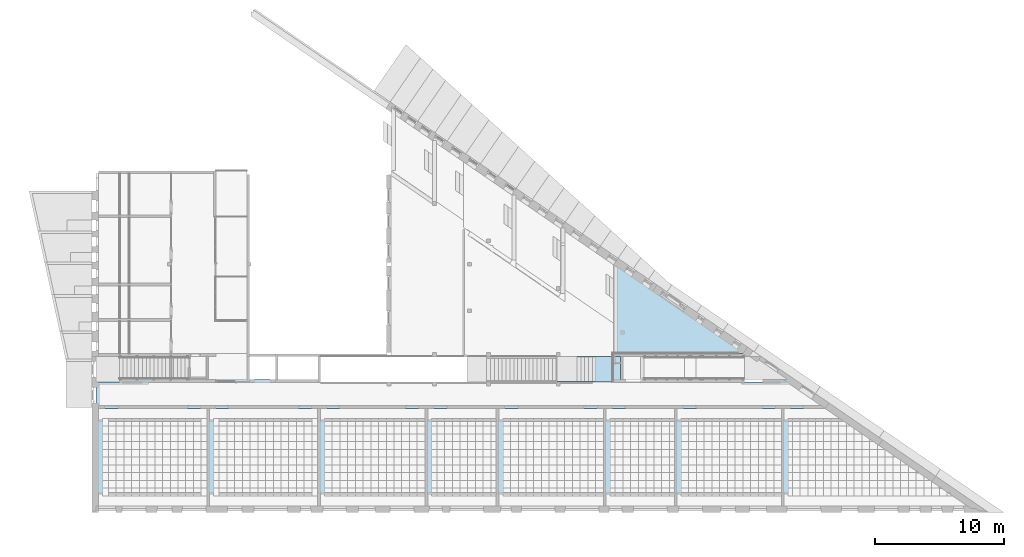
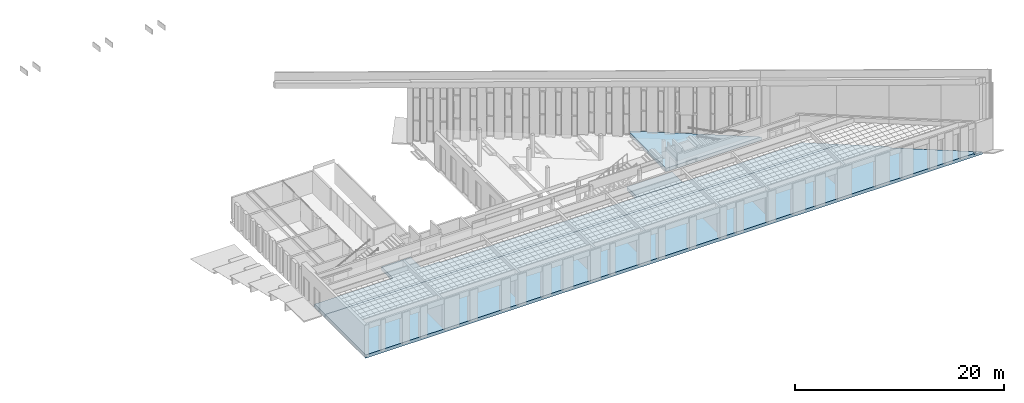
# One storey, part 33 of 79: 4 slabs.
"""IFC2X3 building model written with IfcOpenShell, lengths in millimetres."""

from ifc_helpers import new_model, entity, si_unit, converted_unit, derived_unit, money_unit, direction, frame, origin_with_axes, place, context, subcontext, project, spatial, faceted_brep, material, material_list, type_object, element, save


model = new_model("IFC2X3")

# Units and contexts
model_context = context("Model", 3, precision=0.01, world=origin_with_axes(), true_north=direction((0.0, 1.0)))
body_context = subcontext(model_context, "Body", "Model", "MODEL_VIEW")
ifc_project = project(units=[si_unit("LENGTHUNIT", "METRE", prefix="MILLI"), si_unit("AREAUNIT", "SQUARE_METRE"), si_unit("VOLUMEUNIT", "CUBIC_METRE"), converted_unit("PLANEANGLEUNIT", "DEGREE", entity("IfcPlaneAngleMeasure", 0.0174532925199), si_unit("PLANEANGLEUNIT", "RADIAN"), dimensions=[0, 0, 0, 0, 0, 0, 0]), si_unit("SOLIDANGLEUNIT", "STERADIAN"), money_unit("EUR"), converted_unit("TIMEUNIT", "Year", entity("IfcTimeMeasure", 31556926.0), si_unit("TIMEUNIT", "SECOND"), dimensions=[0, 0, 1, 0, 0, 0, 0]), si_unit("MASSUNIT", "GRAM", prefix="KILO"), si_unit("THERMODYNAMICTEMPERATUREUNIT", "DEGREE_CELSIUS"), si_unit("LUMINOUSINTENSITYUNIT", "LUMEN"), si_unit("ENERGYUNIT", "JOULE", prefix="MEGA"), derived_unit("THERMALCONDUCTANCEUNIT", [(si_unit("POWERUNIT", "WATT"), 1), (si_unit("LENGTHUNIT", "METRE"), -1), (si_unit("THERMODYNAMICTEMPERATUREUNIT", "KELVIN"), -1)]), derived_unit("SPECIFICHEATCAPACITYUNIT", [(si_unit("ENERGYUNIT", "JOULE"), 1), (si_unit("MASSUNIT", "GRAM", prefix="KILO"), -1), (si_unit("THERMODYNAMICTEMPERATUREUNIT", "KELVIN"), -1)]), derived_unit("MASSDENSITYUNIT", [(si_unit("MASSUNIT", "GRAM", prefix="KILO"), 1), (si_unit("VOLUMEUNIT", "CUBIC_METRE"), -1)])], contexts=[model_context])

# Site, building, storey
site_placement = place(None, origin_with_axes())
site = spatial("IfcSite", under=ifc_project, at=site_placement, Name="L.Koidula tn 11b", CompositionType="ELEMENT")
building_placement = place(site_placement, origin_with_axes())
building = spatial("IfcBuilding", under=site, at=building_placement, Name="Rakvere Riigigümnaasium", CompositionType="ELEMENT")
storey_placement = place(building_placement, frame((0.0, 0.0, 3720.0), z_axis=(0.0, 0.0, 1.0), x_axis=(1.0, 0.0, 0.0)))
storey = spatial("IfcBuildingStorey", under=building, at=storey_placement, Name="2.korrus +3,72", CompositionType="ELEMENT", Elevation=3720.0)

# Slabs
ifc_material_1 = material(Name="Parkett")
ifc_material_2 = material(Name="Betoon")
ifc_material_3 = material(Name="Mürasummutus vill")
ifc_material_4 = material(Name="Betoon õõnespaneel")
ifc_material_list_1 = material_list([ifc_material_1, ifc_material_2, ifc_material_3, ifc_material_4])
slab_type_1 = type_object("IfcSlabType", Name="VL-01 395", PredefinedType="NOTDEFINED")
slab_1_placement = place(storey_placement, frame((70999.9980729, 15110.4785302, 0.0), z_axis=(0.0, 0.0, 1.0), x_axis=(1.0, 0.0, 0.0)))
element("IfcSlab", 1, at=slab_1_placement, inside=storey, type_object=slab_type_1, material=ifc_material_list_1, Name="Astmed", PredefinedType="NOTDEFINED", context=body_context, shape_type="Brep", body=[
    faceted_brep([(0.0, 0.0, -10.0), (4989.98406888, 0.0, -10.0), (4989.98406888, 0.0, 0.0), (0.0, 0.0, 0.0), (0.0, 1999.97695546, -10.0), (4989.98406888, 1999.97695546, -10.0), (4989.98406888, 1999.97695546, 0.0), (0.0, 1999.97695546, 0.0)], [[[0, 1, 2, 3]], [[1, 0, 4, 5]], [[1, 5, 6, 2]], [[7, 3, 2, 6]], [[4, 0, 3, 7]], [[5, 4, 7, 6]]]),
    faceted_brep([(0.0, 0.0, -100.0), (4989.98406888, 0.0, -100.0), (4989.98406888, 0.0, -10.0), (0.0, 0.0, -10.0), (0.0, 1999.97695546, -100.0), (4989.98406888, 1999.97695546, -100.0), (4989.98406888, 1999.97695546, -10.0), (0.0, 1999.97695546, -10.0)], [[[0, 1, 2, 3]], [[1, 0, 4, 5]], [[1, 5, 6, 2]], [[7, 3, 2, 6]], [[4, 0, 3, 7]], [[5, 4, 7, 6]]]),
    faceted_brep([(0.0, 0.0, -130.0), (4989.98406888, 0.0, -130.0), (4989.98406888, 0.0, -100.0), (0.0, 0.0, -100.0), (0.0, 1999.97695546, -130.0), (4989.98406888, 1999.97695546, -130.0), (4989.98406888, 1999.97695546, -100.0), (0.0, 1999.97695546, -100.0)], [[[0, 1, 2, 3]], [[1, 0, 4, 5]], [[1, 5, 6, 2]], [[7, 3, 2, 6]], [[4, 0, 3, 7]], [[5, 4, 7, 6]]]),
    faceted_brep([(0.0, 0.0, -130.0), (0.0, 0.0, -395.0), (4989.98406888, 0.0, -395.0), (4989.98406888, 0.0, -130.0), (0.0, 1999.97695546, -130.0), (0.0, 1999.97695546, -395.0), (4989.98406888, 1999.97695546, -395.0), (4989.98406888, 1999.97695546, -130.0)], [[[0, 1, 2, 3]], [[4, 5, 1, 0]], [[2, 1, 5, 6]], [[3, 2, 6, 7]], [[4, 0, 3, 7]], [[7, 6, 5, 4]]]),
])
slab_2_placement = place(storey_placement, frame((64090.0000003, 15100.4785302, 0.0), z_axis=(0.0, 0.0, 1.0), x_axis=(1.0, 0.0, 0.0)))
element("IfcSlab", 2, at=slab_2_placement, inside=storey, type_object=slab_type_1, material=ifc_material_list_1, Name="Vahelagi", PredefinedType="NOTDEFINED", context=body_context, shape_type="Brep", body=[
    faceted_brep([(-14890.0000066, 0.0, -10.0), (-14890.0000066, 200.0, -10.0), (-14890.0000066, 200.0, 0.0), (-14890.0000066, 0.0, 0.0), (1809.99800225, 0.0, -10.0), (1809.99800225, 10.0, -10.0), (11899.9798874, 10.0, -10.0), (11899.9798874, 0.0, -10.0), (25161.2052359, 0.0, -10.0), (28106.3746598, -2020.02415849, -10.0), (-28788.6392077, -2020.02415849, -10.0), (-28788.6392077, 0.0, -10.0), (-20110.0001631, 0.0, -10.0), (-20110.0001631, 2209.97697926, -10.0), (-16890.0000065, 2209.97697926, -10.0), (-16890.0000065, 200.0, -10.0), (-16890.0000065, 200.0, 0.0), (1809.99800225, 0.0, 0.0), (-16890.0000065, 2209.97697926, 0.0), (-20110.0001631, 2209.97697926, 0.0), (-20110.0001631, 0.0, 0.0), (-28788.6392077, 0.0, 0.0), (-28788.6392077, -2020.02415849, 0.0), (28106.3746598, -2020.02415849, 0.0), (25161.2052359, 0.0, 0.0), (11899.9798874, 0.0, 0.0), (11899.9798874, 10.0, 0.0), (1809.99800225, 10.0, 0.0)], [[[0, 1, 2, 3]], [[0, 4, 5, 6, 7, 8, 9, 10, 11, 12, 13, 14, 15, 1]], [[1, 15, 16, 2]], [[17, 3, 2, 16, 18, 19, 20, 21, 22, 23, 24, 25, 26, 27]], [[4, 0, 3, 17]], [[5, 4, 17, 27]], [[6, 5, 27, 26]], [[7, 6, 26, 25]], [[8, 7, 25, 24]], [[9, 8, 24, 23]], [[10, 9, 23, 22]], [[11, 10, 22, 21]], [[12, 11, 21, 20]], [[13, 12, 20, 19]], [[14, 13, 19, 18]], [[15, 14, 18, 16]]]),
    faceted_brep([(0.0, 0.0, -100.0), (-14890.0000066, 0.0, -100.0), (-14890.0000066, 0.0, -10.0), (0.0, 0.0, -10.0), (1809.99800225, 0.0, -100.0), (1809.99800225, 10.0, -100.0), (11899.9798874, 10.0, -100.0), (11899.9798874, 0.0, -100.0), (25161.2052359, 0.0, -100.0), (28106.3746598, -2020.02415849, -100.0), (-28788.6392077, -2020.02415849, -100.0), (-28788.6392077, 0.0, -100.0), (-20110.0001631, 0.0, -100.0), (-20110.0001631, 2209.97697926, -100.0), (-16890.0000065, 2209.97697926, -100.0), (-16890.0000065, 200.0, -100.0), (-14890.0000066, 200.0, -100.0), (-14890.0000066, 200.0, -10.0), (1809.99800225, 0.0, -10.0), (-16890.0000065, 200.0, -10.0), (-16890.0000065, 2209.97697926, -10.0), (-20110.0001631, 2209.97697926, -10.0), (-20110.0001631, 0.0, -10.0), (-28788.6392077, 0.0, -10.0), (-28788.6392077, -2020.02415849, -10.0), (28106.3746598, -2020.02415849, -10.0), (25161.2052359, 0.0, -10.0), (11899.9798874, 0.0, -10.0), (11899.9798874, 10.0, -10.0), (1809.99800225, 10.0, -10.0)], [[[0, 1, 2, 3]], [[1, 0, 4, 5, 6, 7, 8, 9, 10, 11, 12, 13, 14, 15, 16]], [[1, 16, 17, 2]], [[18, 3, 2, 17, 19, 20, 21, 22, 23, 24, 25, 26, 27, 28, 29]], [[4, 0, 3, 18]], [[5, 4, 18, 29]], [[6, 5, 29, 28]], [[7, 6, 28, 27]], [[8, 7, 27, 26]], [[9, 8, 26, 25]], [[10, 9, 25, 24]], [[11, 10, 24, 23]], [[12, 11, 23, 22]], [[13, 12, 22, 21]], [[14, 13, 21, 20]], [[15, 14, 20, 19]], [[16, 15, 19, 17]]]),
    faceted_brep([(-14890.0000066, 0.0, -100.0), (-14890.0000066, 0.0, -130.0), (-14890.0000066, 200.0, -130.0), (-14890.0000066, 200.0, -100.0), (1809.99800225, 0.0, -100.0), (1809.99800225, 0.0, -130.0), (1809.99800225, 10.0, -130.0), (11899.9798874, 10.0, -130.0), (11899.9798874, 0.0, -130.0), (25161.2052359, 0.0, -130.0), (28106.3746598, -2020.02415849, -130.0), (-28788.6392077, -2020.02415849, -130.0), (-28788.6392077, 0.0, -130.0), (-20110.0001631, 0.0, -130.0), (-20110.0001631, 2209.97697926, -130.0), (-16890.0000065, 2209.97697926, -130.0), (-16890.0000065, 200.0, -130.0), (-16890.0000065, 200.0, -100.0), (1809.99800225, 10.0, -100.0), (-16890.0000065, 2209.97697926, -100.0), (-20110.0001631, 2209.97697926, -100.0), (-20110.0001631, 0.0, -100.0), (-28788.6392077, 0.0, -100.0), (-28788.6392077, -2020.02415849, -100.0), (28106.3746598, -2020.02415849, -100.0), (25161.2052359, 0.0, -100.0), (11899.9798874, 0.0, -100.0), (11899.9798874, 10.0, -100.0)], [[[0, 1, 2, 3]], [[4, 5, 1, 0]], [[2, 1, 5, 6, 7, 8, 9, 10, 11, 12, 13, 14, 15, 16]], [[3, 2, 16, 17]], [[18, 4, 0, 3, 17, 19, 20, 21, 22, 23, 24, 25, 26, 27]], [[18, 6, 5, 4]], [[27, 7, 6, 18]], [[26, 8, 7, 27]], [[25, 9, 8, 26]], [[24, 10, 9, 25]], [[23, 11, 10, 24]], [[22, 12, 11, 23]], [[21, 13, 12, 22]], [[20, 14, 13, 21]], [[19, 15, 14, 20]], [[17, 16, 15, 19]]]),
    faceted_brep([(-16890.0000065, 2209.97697926, -395.0), (-19480.0000092, 2209.97697926, -395.0), (-19480.0000092, 2209.97697926, -130.0), (-16890.0000065, 2209.97697926, -130.0), (-19490.0000092, 2009.97698206, -395.0), (-19480.0000092, 2009.97698206, -395.0), (-16890.0000065, 200.0, -395.0), (-14890.0000066, 200.0, -395.0), (-14890.0000066, 0.0, -395.0), (1809.99800225, 0.0, -395.0), (1809.99800225, 10.0, -395.0), (11899.9798874, 10.0, -395.0), (11899.9798874, 0.0, -395.0), (25161.2052359, 0.0, -395.0), (28106.3746598, -2020.02415849, -395.0), (-28788.6392077, -2020.02415849, -395.0), (-28788.6392077, 0.0, -395.0), (-20110.0001631, 0.0, -395.0), (-20110.0001631, 2209.97697926, -395.0), (-19490.0000092, 2209.97697926, -395.0), (-19480.0000092, 2009.97698206, -130.0), (-19490.0000092, 2009.97698206, -130.0), (-19490.0000092, 2209.97697926, -130.0), (-20110.0001631, 2209.97697926, -130.0), (-20110.0001631, 0.0, -130.0), (-28788.6392077, 0.0, -130.0), (-28788.6392077, -2020.02415849, -130.0), (28106.3746598, -2020.02415849, -130.0), (25161.2052359, 0.0, -130.0), (11899.9798874, 0.0, -130.0), (11899.9798874, 10.0, -130.0), (1809.99800225, 10.0, -130.0), (1809.99800225, 0.0, -130.0), (-14890.0000066, 0.0, -130.0), (-14890.0000066, 200.0, -130.0), (-16890.0000065, 200.0, -130.0)], [[[0, 1, 2, 3]], [[4, 5, 1, 0, 6, 7, 8, 9, 10, 11, 12, 13, 14, 15, 16, 17, 18, 19]], [[5, 20, 2, 1]], [[20, 21, 22, 23, 24, 25, 26, 27, 28, 29, 30, 31, 32, 33, 34, 35, 3, 2]], [[3, 35, 6, 0]], [[4, 21, 20, 5]], [[35, 34, 7, 6]], [[34, 33, 8, 7]], [[33, 32, 9, 8]], [[32, 31, 10, 9]], [[31, 30, 11, 10]], [[30, 29, 12, 11]], [[29, 28, 13, 12]], [[28, 27, 14, 13]], [[27, 26, 15, 14]], [[26, 25, 16, 15]], [[25, 24, 17, 16]], [[24, 23, 18, 17]], [[23, 22, 19, 18]], [[4, 19, 22, 21]]]),
])
slab_3_placement = place(storey_placement, frame((86014.5071067, 17320.4555416, 465.0), z_axis=(0.0, 0.0, 1.0), x_axis=(1.0, 0.0, 0.0)))
element("IfcSlab", 3, at=slab_3_placement, inside=storey, type_object=slab_type_1, material=ifc_material_list_1, Name="Astmed", PredefinedType="NOTDEFINED", context=body_context, shape_type="Brep", body=[
    faceted_brep([(-10568.5941791, 6884.97341692, 0.0), (-10559.4191267, 6878.68716617, 0.0), (-10559.4191267, 0.0, 0.0), (0.0, 0.0, 0.0), (-10398.9085631, 7132.37287793, 0.0), (-10559.4191267, 6878.68716617, -10.0), (-10568.5941791, 6884.97341692, -10.0), (-10559.4191267, 0.0, -10.0), (0.0, 0.0, -10.0), (-10398.9085631, 7132.37287793, -10.0)], [[[0, 1, 2, 3, 4]], [[5, 1, 0, 6]], [[7, 2, 1, 5]], [[3, 2, 7, 8]], [[3, 8, 9, 4]], [[9, 6, 0, 4]], [[7, 5, 6, 9, 8]]]),
    faceted_brep([(-10559.4191267, 6878.68716617, -10.0), (-10559.4191267, 0.0, -10.0), (0.0, 0.0, -10.0), (-10398.9085631, 7132.37287793, -10.0), (-10568.5941791, 6884.97341692, -10.0), (-10559.4191267, 6878.68716617, -100.0), (-10559.4191267, 0.0, -100.0), (0.0, 0.0, -100.0), (-10398.9085631, 7132.37287793, -100.0), (-10568.5941791, 6884.97341692, -100.0)], [[[0, 1, 2, 3, 4]], [[1, 0, 5, 6]], [[1, 6, 7, 2]], [[7, 8, 3, 2]], [[9, 4, 3, 8]], [[0, 4, 9, 5]], [[5, 9, 8, 7, 6]]]),
    faceted_brep([(-10559.4191267, 6878.68716617, -100.0), (-10559.4191267, 0.0, -100.0), (0.0, 0.0, -100.0), (-10398.9085631, 7132.37287793, -100.0), (-10568.5941791, 6884.97341692, -100.0), (-10559.4191267, 6878.68716617, -130.0), (-10559.4191267, 0.0, -130.0), (0.0, 0.0, -130.0), (-10398.9085631, 7132.37287793, -130.0), (-10568.5941791, 6884.97341692, -130.0)], [[[0, 1, 2, 3, 4]], [[1, 0, 5, 6]], [[1, 6, 7, 2]], [[7, 8, 3, 2]], [[9, 4, 3, 8]], [[0, 4, 9, 5]], [[5, 9, 8, 7, 6]]]),
    faceted_brep([(-10549.4191267, 6871.82839552, -130.0), (-10549.4191267, 0.0, -130.0), (0.0, 0.0, -130.0), (-10398.9085631, 7132.37287793, -130.0), (-10568.5941791, 6884.97341692, -130.0), (-10549.4191267, 6871.82839552, -395.0), (-10549.4191267, 0.0, -395.0), (0.0, 0.0, -395.0), (-10398.9085631, 7132.37287793, -395.0), (-10568.5941791, 6884.97341692, -395.0)], [[[0, 1, 2, 3, 4]], [[1, 0, 5, 6]], [[1, 6, 7, 2]], [[2, 7, 8, 3]], [[9, 4, 3, 8]], [[5, 0, 4, 9]], [[5, 9, 8, 7, 6]]]),
])
ifc_material_5 = material(Name="PVC-klassid")
ifc_material_6 = material(Name="Betoon - pealevalu")
ifc_material_list_2 = material_list([ifc_material_5, ifc_material_6, ifc_material_2, ifc_material_3, ifc_material_4])
slab_type_2 = type_object("IfcSlabType", Name="VL-01-1 395", PredefinedType="NOTDEFINED")
slab_4_placement = place(storey_placement, frame((35301.3607926, 13080.4543717, 0.0), z_axis=(0.0, 0.0, 1.0), x_axis=(1.0, 0.0, 0.0)))
element("IfcSlab", 4, at=slab_4_placement, inside=storey, type_object=slab_type_2, material=ifc_material_list_2, Name="Vahelagi", PredefinedType="NOTDEFINED", context=body_context, shape_type="Brep", body=[
    faceted_brep([(67592.960856, -7579.99883287, -5.0), (60713.6694396, -2861.65063124, -5.0), (60713.6694396, -2861.65063124, 0.0), (64837.000811, -5689.74904769, 0.0), (67592.960856, -7579.99883287, 0.0), (67298.6049198, -7579.99883287, -5.0), (67298.6049198, -7779.99883287, -5.0), (0.0, -7779.99883287, -5.0), (0.0, 0.0, -5.0), (56895.0138674, 0.0, -5.0), (60826.7933712, -2696.71738381, -5.0), (60826.7933712, -2696.71738381, 0.0), (56895.0138674, 0.0, 0.0), (0.0, 0.0, 0.0), (0.0, -7779.99883287, 0.0), (67298.6049198, -7779.99883287, 0.0), (67298.6049198, -7579.99883287, 0.0)], [[[0, 1, 2, 3, 4]], [[1, 0, 5, 6, 7, 8, 9, 10]], [[10, 11, 2, 1]], [[2, 11, 12, 13, 14, 15, 16, 4, 3]], [[0, 4, 16, 5]], [[16, 15, 6, 5]], [[6, 15, 14, 7]], [[8, 7, 14, 13]], [[9, 8, 13, 12]], [[11, 10, 9, 12]]]),
    faceted_brep([(67592.960856, -7579.99883287, -10.0), (60713.6694396, -2861.65063124, -10.0), (60713.6694396, -2861.65063124, -5.0), (67592.960856, -7579.99883287, -5.0), (67298.6049198, -7579.99883287, -10.0), (67298.6049198, -7779.99883287, -10.0), (0.0, -7779.99883287, -10.0), (0.0, 0.0, -10.0), (56895.0138674, 0.0, -10.0), (60826.7933712, -2696.71738381, -10.0), (60826.7933712, -2696.71738381, -5.0), (56895.0138674, 0.0, -5.0), (0.0, 0.0, -5.0), (0.0, -7779.99883287, -5.0), (67298.6049198, -7779.99883287, -5.0), (67298.6049198, -7579.99883287, -5.0)], [[[0, 1, 2, 3]], [[1, 0, 4, 5, 6, 7, 8, 9]], [[9, 10, 2, 1]], [[2, 10, 11, 12, 13, 14, 15, 3]], [[0, 3, 15, 4]], [[15, 14, 5, 4]], [[5, 14, 13, 6]], [[7, 6, 13, 12]], [[8, 7, 12, 11]], [[10, 9, 8, 11]]]),
    faceted_brep([(67592.960856, -7579.99883287, -100.0), (60713.6694396, -2861.65063124, -100.0), (60713.6694396, -2861.65063124, -10.0), (67592.960856, -7579.99883287, -10.0), (67298.6049198, -7579.99883287, -100.0), (67298.6049198, -7779.99883287, -100.0), (0.0, -7779.99883287, -100.0), (0.0, 0.0, -100.0), (56895.0138674, 0.0, -100.0), (60826.7933712, -2696.71738381, -100.0), (60826.7933712, -2696.71738381, -10.0), (56895.0138674, 0.0, -10.0), (0.0, 0.0, -10.0), (0.0, -7779.99883287, -10.0), (67298.6049198, -7779.99883287, -10.0), (67298.6049198, -7579.99883287, -10.0)], [[[0, 1, 2, 3]], [[1, 0, 4, 5, 6, 7, 8, 9]], [[9, 10, 2, 1]], [[2, 10, 11, 12, 13, 14, 15, 3]], [[0, 3, 15, 4]], [[15, 14, 5, 4]], [[5, 14, 13, 6]], [[7, 6, 13, 12]], [[8, 7, 12, 11]], [[10, 9, 8, 11]]]),
    faceted_brep([(67592.960856, -7579.99883287, -130.0), (60713.6694396, -2861.65063124, -130.0), (60713.6694396, -2861.65063124, -100.0), (67592.960856, -7579.99883287, -100.0), (67298.6049198, -7579.99883287, -130.0), (67298.6049198, -7779.99883287, -130.0), (0.0, -7779.99883287, -130.0), (0.0, 0.0, -130.0), (56895.0138674, 0.0, -130.0), (60826.7933712, -2696.71738381, -130.0), (60826.7933712, -2696.71738381, -100.0), (56895.0138674, 0.0, -100.0), (0.0, 0.0, -100.0), (0.0, -7779.99883287, -100.0), (67298.6049198, -7779.99883287, -100.0), (67298.6049198, -7579.99883287, -100.0)], [[[0, 1, 2, 3]], [[1, 0, 4, 5, 6, 7, 8, 9]], [[9, 10, 2, 1]], [[2, 10, 11, 12, 13, 14, 15, 3]], [[0, 3, 15, 4]], [[15, 14, 5, 4]], [[5, 14, 13, 6]], [[7, 6, 13, 12]], [[8, 7, 12, 11]], [[10, 9, 8, 11]]]),
    faceted_brep([(0.0, 0.0, -130.0), (0.0, 0.0, -395.0), (0.0, -7779.99883287, -395.0), (0.0, -7779.99883287, -130.0), (56895.0138674, 0.0, -130.0), (56895.0138674, 0.0, -395.0), (68238.1528015, -7779.99883287, -395.0), (68238.1528015, -7779.99883287, -130.0)], [[[0, 1, 2, 3]], [[4, 5, 1, 0]], [[2, 1, 5, 6]], [[3, 2, 6, 7]], [[4, 0, 3, 7]], [[7, 6, 5, 4]]]),
])

save(model, "model.ifc")
